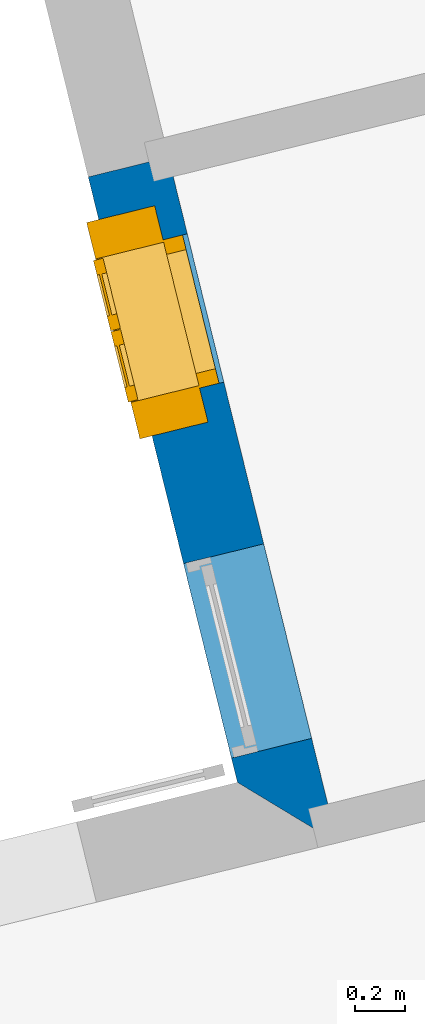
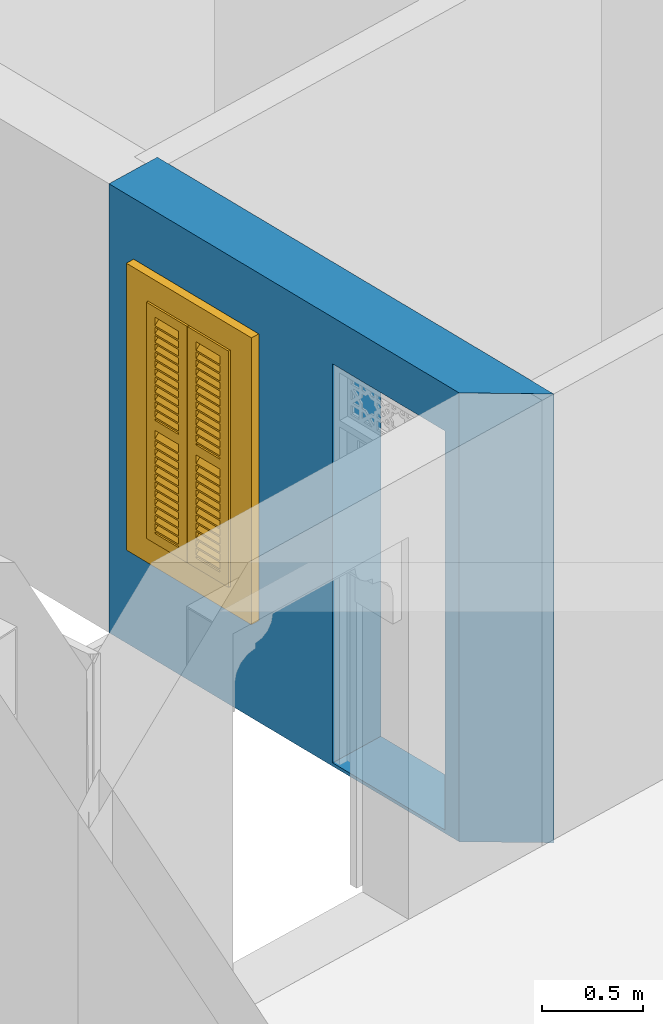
# One storey, part 5 of 12: 1 wall, 1 window, 2 openings.
"""IFC4 building model written with IfcOpenShell, lengths in metres."""

from ifc_helpers import new_model, si_unit, frame, origin, origin_with_axes, place, context, subcontext, project, spatial, polyline, outline, extrude, faceted_brep, source, transform, mapped, material, layer, layer_set, layer_usage, type_object, type_shapes, element, fill, save


model = new_model("IFC4")

# Units and contexts
model_context = context("Model", 3, world=origin_with_axes())
body_context = subcontext(model_context, "Body", "Model", "MODEL_VIEW")
ifc_project = project(units=[si_unit("PLANEANGLEUNIT", "RADIAN"), si_unit("MASSUNIT", "GRAM", prefix="KILO"), si_unit("FORCEUNIT", "NEWTON", prefix="KILO"), si_unit("LENGTHUNIT", "METRE"), si_unit("AREAUNIT", "SQUARE_METRE"), si_unit("VOLUMEUNIT", "CUBIC_METRE")], contexts=[model_context, model_context])

# Site, building, storey
site_placement = place(None, origin_with_axes())
site = spatial("IfcSite", under=ifc_project, at=site_placement, Name="Site plot-1", CompositionType="ELEMENT")
building_placement = place(None, origin_with_axes())
building = spatial("IfcBuilding", under=site, at=building_placement, Name="Building plot-1", CompositionType="ELEMENT")
storey_placement = place(None, origin_with_axes())
storey = spatial("IfcBuildingStorey", under=building, at=storey_placement, Name="plot-1 0", CompositionType="ELEMENT", Elevation=0.0)

# Wall, openings, window
ifc_material = material(Name="Masonry")
ifc_layer = layer(ifc_material, 0.33, ventilated=False)
ifc_layer_set = layer_set([ifc_layer], Name="exterior_0.08_0.25")
ifc_layer_usage = layer_usage(ifc_layer_set, "AXIS2", "POSITIVE", -0.25)
wall_type = type_object("IfcWallType", Name="exterior_0.08_0.25", PredefinedType="SOLIDWALL", material=ifc_layer_set)
wall_placement = place(storey_placement, frame((2.49804151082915, 21.2338836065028, 0.0), z_axis=(0.0, 0.0, 1.0), x_axis=(0.239234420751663, -0.970961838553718, 0.0)))
wall = element("IfcWall", 1, at=wall_placement, inside=storey, type_object=wall_type, material=ifc_layer_usage, Name="exterior", context=body_context, shape_type="SweptSolid", body=[
    extrude(outline(polyline([(-2.43791370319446e-16, 0.0800000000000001), (-1.37819188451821e-15, -0.25), (2.49089482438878, -0.249999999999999), (2.82089482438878, 0.0800000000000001), (-2.43791370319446e-16, 0.0800000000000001)])), origin_with_axes(), (0.0, 0.0, 1.0), 2.7),
])
opening_1_placement = place(wall_placement, frame((0.31544741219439, 0.0, 0.75)))
opening_1 = element("IfcOpeningElement", 2, at=opening_1_placement, cuts=wall, Name="My Opening", ObjectType="Opening", context=body_context, shape_type="SweptSolid", body=[
    extrude(outline(polyline([(0.0, -0.270000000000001), (0.610000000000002, -0.270000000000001), (0.61, 1.1), (-2.05391259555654e-15, 1.1), (0.0, -0.270000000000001)])), origin_with_axes(), (0.0, 0.0, 1.0), 1.445),
])
opening_2_placement = place(wall_placement, frame((1.59089482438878, 0.0, 0.02)))
element("IfcOpeningElement", 3, at=opening_2_placement, cuts=wall, Name="My Opening", ObjectType="Opening", context=body_context, shape_type="SweptSolid", body=[
    extrude(outline(polyline([(0.0, -0.27), (0.8, -0.270000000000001), (0.799999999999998, 1.1), (-2.44249065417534e-15, 1.1), (0.0, -0.27)])), origin_with_axes(), (0.0, 0.0, 1.0), 2.4),
])
window_type = type_object("IfcWindowType", Name="shuttered_shorter_narrow", PartitioningType="DOUBLE_PANEL_HORIZONTAL", PredefinedType="NOTDEFINED")
shared_shape = source(origin(), body_context, "Body", "Brep", [
    faceted_brep([(0.243, 0.0, 0.622), (0.074, 0.0, 0.622), (0.074, 0.0, 0.632), (0.243, 0.0, 0.632), (0.074, -0.04, 0.592), (0.243, -0.04, 0.592), (0.243, -0.04, 0.582), (0.074, -0.04, 0.582), (0.367, 0.0, 0.682), (0.536, 0.0, 0.682), (0.536, 0.0, 0.672), (0.367, 0.0, 0.672), (0.367, -0.04, 0.642), (0.536, -0.04, 0.642), (0.536, -0.04, 0.632), (0.367, -0.04, 0.632), (0.367, 0.0, 0.632), (0.536, 0.0, 0.632), (0.536, 0.0, 0.622), (0.367, 0.0, 0.622), (0.367, -0.04, 0.592), (0.536, -0.04, 0.592), (0.536, -0.04, 0.582), (0.367, -0.04, 0.582), (0.367, 0.0, 0.232), (0.536, 0.0, 0.232), (0.536, 0.0, 0.222), (0.367, 0.0, 0.222), (0.367, -0.04, 0.192), (0.536, -0.04, 0.192), (0.536, -0.04, 0.182), (0.367, -0.04, 0.182), (0.367, 0.0, 0.532), (0.536, 0.0, 0.532), (0.536, 0.0, 0.522), (0.367, 0.0, 0.522), (0.367, -0.04, 0.492), (0.536, -0.04, 0.492), (0.536, -0.04, 0.482), (0.367, -0.04, 0.482), (0.367, 0.0, 0.482), (0.536, 0.0, 0.482), (0.536, 0.0, 0.472), (0.367, 0.0, 0.472), (0.367, -0.04, 0.442), (0.536, -0.04, 0.442), (0.536, -0.04, 0.432), (0.367, -0.04, 0.432), (0.367, 0.0, 0.582), (0.536, 0.0, 0.582), (0.536, 0.0, 0.572), (0.367, 0.0, 0.572), (0.367, -0.04, 0.542), (0.536, -0.04, 0.542), (0.536, -0.04, 0.532), (0.367, -0.04, 0.532), (0.367, 0.0, 0.182), (0.536, 0.0, 0.182), (0.536, 0.0, 0.172), (0.367, 0.0, 0.172), (0.367, -0.04, 0.142), (0.536, -0.04, 0.142), (0.536, -0.04, 0.132), (0.367, -0.04, 0.132), (0.367, 0.0, 0.382), (0.536, 0.0, 0.382), (0.536, 0.0, 0.372), (0.367, 0.0, 0.372), (0.367, -0.04, 0.342), (0.536, -0.04, 0.342), (0.536, -0.04, 0.332), (0.367, -0.04, 0.332), (0.367, 0.0, 0.432), (0.536, 0.0, 0.432), (0.536, 0.0, 0.422), (0.367, 0.0, 0.422), (0.367, -0.04, 0.392), (0.536, -0.04, 0.392), (0.536, -0.04, 0.382), (0.367, -0.04, 0.382), (0.367, 0.0, 0.132), (0.536, 0.0, 0.132), (0.536, 0.0, 0.122), (0.367, 0.0, 0.122), (0.367, -0.04, 0.092), (0.536, -0.04, 0.092), (0.536, -0.04, 0.082), (0.367, -0.04, 0.082), (0.367, 0.0, 0.282), (0.536, 0.0, 0.282), (0.536, 0.0, 0.272), (0.367, 0.0, 0.272), (0.367, -0.04, 0.242), (0.536, -0.04, 0.242), (0.536, -0.04, 0.232), (0.367, -0.04, 0.232), (0.367, 0.0, 0.332), (0.536, 0.0, 0.332), (0.536, 0.0, 0.322), (0.367, 0.0, 0.322), (0.367, -0.04, 0.292), (0.536, -0.04, 0.292), (0.536, -0.04, 0.282), (0.367, -0.04, 0.282), (0.367, 0.0, 1.362667), (0.536, 0.0, 1.362667), (0.536, 0.0, 1.352667), (0.367, 0.0, 1.352667), (0.367, -0.04, 1.322667), (0.536, -0.04, 1.322667), (0.536, -0.04, 1.312667), (0.367, -0.04, 1.312667), (0.367, 0.0, 1.312667), (0.536, 0.0, 1.312667), (0.536, 0.0, 1.302667), (0.367, 0.0, 1.302667), (0.367, -0.04, 1.272667), (0.536, -0.04, 1.272667), (0.536, -0.04, 1.262667), (0.367, -0.04, 1.262667), (0.367, 0.0, 0.912667), (0.536, 0.0, 0.912667), (0.536, 0.0, 0.902667), (0.367, 0.0, 0.902667), (0.367, -0.04, 0.872667), (0.536, -0.04, 0.872667), (0.536, -0.04, 0.862667), (0.367, -0.04, 0.862667), (0.367, 0.0, 1.212667), (0.536, 0.0, 1.212667), (0.536, 0.0, 1.202667), (0.367, 0.0, 1.202667), (0.367, -0.04, 1.172667), (0.536, -0.04, 1.172667), (0.536, -0.04, 1.162667), (0.367, -0.04, 1.162667), (0.367, 0.0, 1.162667), (0.536, 0.0, 1.162667), (0.536, 0.0, 1.152667), (0.367, 0.0, 1.152667), (0.367, -0.04, 1.122667), (0.536, -0.04, 1.122667), (0.536, -0.04, 1.112667), (0.367, -0.04, 1.112667), (0.367, 0.0, 1.262667), (0.536, 0.0, 1.262667), (0.536, 0.0, 1.252667), (0.367, 0.0, 1.252667), (0.367, -0.04, 1.222667), (0.536, -0.04, 1.222667), (0.536, -0.04, 1.212667), (0.367, -0.04, 1.212667), (0.367, 0.0, 0.862667), (0.536, 0.0, 0.862667), (0.536, 0.0, 0.852667), (0.367, 0.0, 0.852667), (0.367, -0.04, 0.822667), (0.536, -0.04, 0.822667), (0.536, -0.04, 0.812667), (0.367, -0.04, 0.812667), (0.367, 0.0, 1.062667), (0.536, 0.0, 1.062667), (0.536, 0.0, 1.052667), (0.367, 0.0, 1.052667), (0.367, -0.04, 1.022667), (0.536, -0.04, 1.022667), (0.536, -0.04, 1.012667), (0.367, -0.04, 1.012667), (0.367, 0.0, 1.112667), (0.536, 0.0, 1.112667), (0.536, 0.0, 1.102667), (0.367, 0.0, 1.102667), (0.367, -0.04, 1.072667), (0.536, -0.04, 1.072667), (0.536, -0.04, 1.062667), (0.367, -0.04, 1.062667), (0.367, 0.0, 0.812667), (0.536, 0.0, 0.812667), (0.536, 0.0, 0.802667), (0.367, 0.0, 0.802667), (0.367, -0.04, 0.772667), (0.536, -0.04, 0.772667), (0.536, -0.04, 0.762667), (0.367, -0.04, 0.762667), (0.367, 0.0, 0.962667), (0.536, 0.0, 0.962667), (0.536, 0.0, 0.952667), (0.367, 0.0, 0.952667), (0.367, -0.04, 0.922667), (0.536, -0.04, 0.922667), (0.536, -0.04, 0.912667), (0.367, -0.04, 0.912667), (0.367, 0.0, 1.012667), (0.536, 0.0, 1.012667), (0.536, 0.0, 1.002667), (0.367, 0.0, 1.002667), (0.367, -0.04, 0.972667), (0.536, -0.04, 0.972667), (0.536, -0.04, 0.962667), (0.367, -0.04, 0.962667), (0.074, 0.0, 0.682), (0.243, 0.0, 0.682), (0.243, 0.0, 0.672), (0.074, 0.0, 0.672), (0.074, -0.04, 0.642), (0.243, -0.04, 0.642), (0.243, -0.04, 0.632), (0.074, -0.04, 0.632), (0.074, 0.0, 0.232), (0.243, 0.0, 0.232), (0.243, 0.0, 0.222), (0.074, 0.0, 0.222), (0.074, -0.04, 0.192), (0.243, -0.04, 0.192), (0.243, -0.04, 0.182), (0.074, -0.04, 0.182), (0.074, 0.0, 0.532), (0.243, 0.0, 0.532), (0.243, 0.0, 0.522), (0.074, 0.0, 0.522), (0.074, -0.04, 0.492), (0.243, -0.04, 0.492), (0.243, -0.04, 0.482), (0.074, -0.04, 0.482), (0.074, 0.0, 0.482), (0.243, 0.0, 0.482), (0.243, 0.0, 0.472), (0.074, 0.0, 0.472), (0.074, -0.04, 0.442), (0.243, -0.04, 0.442), (0.243, -0.04, 0.432), (0.074, -0.04, 0.432), (0.074, 0.0, 0.582), (0.243, 0.0, 0.582), (0.243, 0.0, 0.572), (0.074, 0.0, 0.572), (0.074, -0.04, 0.542), (0.243, -0.04, 0.542), (0.243, -0.04, 0.532), (0.074, -0.04, 0.532), (0.074, 0.0, 0.182), (0.243, 0.0, 0.182), (0.243, 0.0, 0.172), (0.074, 0.0, 0.172), (0.074, -0.04, 0.142), (0.243, -0.04, 0.142), (0.243, -0.04, 0.132), (0.074, -0.04, 0.132), (0.074, 0.0, 0.382), (0.243, 0.0, 0.382), (0.243, 0.0, 0.372), (0.074, 0.0, 0.372), (0.074, -0.04, 0.342), (0.243, -0.04, 0.342), (0.243, -0.04, 0.332), (0.074, -0.04, 0.332), (0.074, 0.0, 0.432), (0.243, 0.0, 0.432), (0.243, 0.0, 0.422), (0.074, 0.0, 0.422), (0.074, -0.04, 0.392), (0.243, -0.04, 0.392), (0.243, -0.04, 0.382), (0.074, -0.04, 0.382), (0.074, 0.0, 0.132), (0.243, 0.0, 0.132), (0.243, 0.0, 0.122), (0.074, 0.0, 0.122), (0.074, -0.04, 0.092), (0.243, -0.04, 0.092), (0.243, -0.04, 0.082), (0.074, -0.04, 0.082), (0.074, 0.0, 0.282), (0.243, 0.0, 0.282), (0.243, 0.0, 0.272), (0.074, 0.0, 0.272), (0.074, -0.04, 0.242), (0.243, -0.04, 0.242), (0.243, -0.04, 0.232), (0.074, -0.04, 0.232), (0.074, 0.0, 0.332), (0.243, 0.0, 0.332), (0.243, 0.0, 0.322), (0.074, 0.0, 0.322), (0.074, -0.04, 0.292), (0.243, -0.04, 0.292), (0.243, -0.04, 0.282), (0.074, -0.04, 0.282), (0.074, 0.0, 1.362667), (0.243, 0.0, 1.362667), (0.243, 0.0, 1.352667), (0.074, 0.0, 1.352667), (0.074, -0.04, 1.322667), (0.243, -0.04, 1.322667), (0.243, -0.04, 1.312667), (0.074, -0.04, 1.312667), (0.074, 0.0, 1.312667), (0.243, 0.0, 1.312667), (0.243, 0.0, 1.302667), (0.074, 0.0, 1.302667), (0.074, -0.04, 1.272667), (0.243, -0.04, 1.272667), (0.243, -0.04, 1.262667), (0.074, -0.04, 1.262667), (0.074, 0.0, 0.912667), (0.243, 0.0, 0.912667), (0.243, 0.0, 0.902667), (0.074, 0.0, 0.902667), (0.074, -0.04, 0.872667), (0.243, -0.04, 0.872667), (0.243, -0.04, 0.862667), (0.074, -0.04, 0.862667), (0.074, 0.0, 1.212667), (0.243, 0.0, 1.212667), (0.243, 0.0, 1.202667), (0.074, 0.0, 1.202667), (0.074, -0.04, 1.172667), (0.243, -0.04, 1.172667), (0.243, -0.04, 1.162667), (0.074, -0.04, 1.162667), (0.074, 0.0, 1.162667), (0.243, 0.0, 1.162667), (0.243, 0.0, 1.152667), (0.074, 0.0, 1.152667), (0.074, -0.04, 1.122667), (0.243, -0.04, 1.122667), (0.243, -0.04, 1.112667), (0.074, -0.04, 1.112667), (0.074, 0.0, 1.262667), (0.243, 0.0, 1.262667), (0.243, 0.0, 1.252667), (0.074, 0.0, 1.252667), (0.074, -0.04, 1.222667), (0.243, -0.04, 1.222667), (0.243, -0.04, 1.212667), (0.074, -0.04, 1.212667), (0.074, 0.0, 0.862667), (0.243, 0.0, 0.862667), (0.243, 0.0, 0.852667), (0.074, 0.0, 0.852667), (0.074, -0.04, 0.822667), (0.243, -0.04, 0.822667), (0.243, -0.04, 0.812667), (0.074, -0.04, 0.812667), (0.074, 0.0, 1.062667), (0.243, 0.0, 1.062667), (0.243, 0.0, 1.052667), (0.074, 0.0, 1.052667), (0.074, -0.04, 1.022667), (0.243, -0.04, 1.022667), (0.243, -0.04, 1.012667), (0.074, -0.04, 1.012667), (0.074, 0.0, 1.112667), (0.243, 0.0, 1.112667), (0.243, 0.0, 1.102667), (0.074, 0.0, 1.102667), (0.074, -0.04, 1.072667), (0.243, -0.04, 1.072667), (0.243, -0.04, 1.062667), (0.074, -0.04, 1.062667), (0.074, 0.0, 0.812667), (0.243, 0.0, 0.812667), (0.243, 0.0, 0.802667), (0.074, 0.0, 0.802667), (0.074, -0.04, 0.772667), (0.243, -0.04, 0.772667), (0.243, -0.04, 0.762667), (0.074, -0.04, 0.762667), (0.074, 0.0, 0.962667), (0.243, 0.0, 0.962667), (0.243, 0.0, 0.952667), (0.074, 0.0, 0.952667), (0.074, -0.04, 0.922667), (0.243, -0.04, 0.922667), (0.243, -0.04, 0.912667), (0.074, -0.04, 0.912667), (0.074, 0.0, 1.012667), (0.243, 0.0, 1.012667), (0.243, 0.0, 1.002667), (0.074, 0.0, 1.002667), (0.074, -0.04, 0.972667), (0.243, -0.04, 0.972667), (0.243, -0.04, 0.962667), (0.074, -0.04, 0.962667), (0.367, -0.04, 0.072), (0.307, -0.04, 0.012), (0.596, -0.04, 0.012), (0.536, -0.04, 0.072), (0.307, -0.04, 0.692667), (0.367, -0.04, 0.692667), (0.307, 0.0, 0.012), (0.596, 0.0, 0.012), (0.536, -0.04, 0.692667), (0.596, -0.04, 0.692667), (0.536, 0.0, 0.072), (0.367, 0.0, 0.072), (0.307, 0.0, 0.692667), (0.367, 0.0, 0.692667), (0.367, -0.04, 0.752666), (0.307, -0.04, 0.752666), (0.596, 0.0, 0.692667), (0.536, 0.0, 0.692667), (0.536, -0.04, 0.752666), (0.596, -0.04, 0.752666), (0.307, 0.0, 0.752666), (0.307, -0.04, 1.433333), (0.367, -0.04, 1.373333), (0.596, 0.0, 0.752666), (0.536, -0.04, 1.373333), (0.596, -0.04, 1.433333), (0.307, 0.0, 1.433333), (0.367, 0.0, 0.752666), (0.536, 0.0, 0.752666), (0.367, 0.0, 1.373333), (0.596, 0.0, 1.433333), (0.536, 0.0, 1.373333), (0.074, -0.04, 0.072), (0.014, -0.04, 0.012), (0.303, -0.04, 0.012), (0.243, -0.04, 0.072), (0.014, -0.04, 0.692667), (0.074, -0.04, 0.692667), (0.014, 0.0, 0.012), (0.303, 0.0, 0.012), (0.243, -0.04, 0.692667), (0.303, -0.04, 0.692667), (0.243, 0.0, 0.072), (0.074, 0.0, 0.072), (0.014, 0.0, 0.692667), (0.074, 0.0, 0.692667), (0.074, -0.04, 0.752666), (0.014, -0.04, 0.752666), (0.303, 0.0, 0.692667), (0.243, 0.0, 0.692667), (0.243, -0.04, 0.752666), (0.303, -0.04, 0.752666), (0.014, 0.0, 0.752666), (0.014, -0.04, 1.433333), (0.074, -0.04, 1.373333), (0.303, 0.0, 0.752666), (0.243, -0.04, 1.373333), (0.303, -0.04, 1.433333), (0.014, 0.0, 1.433333), (0.074, 0.0, 0.752666), (0.243, 0.0, 0.752666), (0.074, 0.0, 1.373333), (0.303, 0.0, 1.433333), (0.243, 0.0, 1.373333), (0.0, 0.33, 1.445), (0.61, 0.33, 1.445), (0.55, 0.33, 1.385), (0.06, 0.33, 1.385), (0.61, 0.25, 1.445), (0.0, 0.25, 1.445), (0.61, 0.25, 1.445), (0.55, 0.33, 0.06), (0.61, 0.33, 0.0), (0.55, 0.25, 1.385), (0.06, 0.25, 1.385), (0.0, 0.33, 0.0), (0.06, 0.33, 0.06), (0.0, 0.25, 0.0), (0.61, 0.25, 0.0), (0.55, 0.25, 0.06), (0.06, 0.25, 0.06), (0.75, 0.25, 1.585), (-0.14, 0.25, 1.585), (-0.14, -0.03, 1.585), (0.75, -0.03, 1.585), (0.6, -0.03, 1.435), (0.01, -0.03, 1.435), (0.01, 0.25, 1.435), (0.6, 0.25, 1.435), (0.6, 0.25, 0.01), (0.6, -0.03, 0.01), (0.75, -0.03, -0.14), (0.75, 0.25, -0.14), (0.01, -0.03, 0.01), (0.01, 0.25, 0.01), (-0.14, -0.03, -0.14), (-0.14, 0.25, -0.14)], [[[0, 1, 2, 3]], [[4, 5, 3, 2]], [[5, 6, 0, 3]], [[1, 0, 6, 7]], [[2, 1, 7, 4]], [[5, 4, 7, 6]], [[8, 9, 10, 11]], [[12, 13, 9, 8]], [[13, 14, 10, 9]], [[14, 15, 11, 10]], [[15, 12, 8, 11]], [[13, 12, 15, 14]], [[16, 17, 18, 19]], [[20, 21, 17, 16]], [[21, 22, 18, 17]], [[22, 23, 19, 18]], [[23, 20, 16, 19]], [[21, 20, 23, 22]], [[24, 25, 26, 27]], [[28, 29, 25, 24]], [[29, 30, 26, 25]], [[30, 31, 27, 26]], [[31, 28, 24, 27]], [[29, 28, 31, 30]], [[32, 33, 34, 35]], [[36, 37, 33, 32]], [[37, 38, 34, 33]], [[38, 39, 35, 34]], [[39, 36, 32, 35]], [[37, 36, 39, 38]], [[40, 41, 42, 43]], [[44, 45, 41, 40]], [[45, 46, 42, 41]], [[46, 47, 43, 42]], [[47, 44, 40, 43]], [[45, 44, 47, 46]], [[48, 49, 50, 51]], [[52, 53, 49, 48]], [[53, 54, 50, 49]], [[54, 55, 51, 50]], [[55, 52, 48, 51]], [[53, 52, 55, 54]], [[56, 57, 58, 59]], [[60, 61, 57, 56]], [[61, 62, 58, 57]], [[62, 63, 59, 58]], [[63, 60, 56, 59]], [[61, 60, 63, 62]], [[64, 65, 66, 67]], [[68, 69, 65, 64]], [[69, 70, 66, 65]], [[70, 71, 67, 66]], [[71, 68, 64, 67]], [[69, 68, 71, 70]], [[72, 73, 74, 75]], [[76, 77, 73, 72]], [[77, 78, 74, 73]], [[78, 79, 75, 74]], [[79, 76, 72, 75]], [[77, 76, 79, 78]], [[80, 81, 82, 83]], [[84, 85, 81, 80]], [[85, 86, 82, 81]], [[86, 87, 83, 82]], [[87, 84, 80, 83]], [[85, 84, 87, 86]], [[88, 89, 90, 91]], [[92, 93, 89, 88]], [[93, 94, 90, 89]], [[94, 95, 91, 90]], [[95, 92, 88, 91]], [[93, 92, 95, 94]], [[96, 97, 98, 99]], [[100, 101, 97, 96]], [[101, 102, 98, 97]], [[102, 103, 99, 98]], [[103, 100, 96, 99]], [[101, 100, 103, 102]], [[104, 105, 106, 107]], [[108, 109, 105, 104]], [[109, 110, 106, 105]], [[110, 111, 107, 106]], [[111, 108, 104, 107]], [[109, 108, 111, 110]], [[112, 113, 114, 115]], [[116, 117, 113, 112]], [[117, 118, 114, 113]], [[118, 119, 115, 114]], [[119, 116, 112, 115]], [[117, 116, 119, 118]], [[120, 121, 122, 123]], [[124, 125, 121, 120]], [[125, 126, 122, 121]], [[126, 127, 123, 122]], [[127, 124, 120, 123]], [[125, 124, 127, 126]], [[128, 129, 130, 131]], [[132, 133, 129, 128]], [[133, 134, 130, 129]], [[134, 135, 131, 130]], [[135, 132, 128, 131]], [[133, 132, 135, 134]], [[136, 137, 138, 139]], [[140, 141, 137, 136]], [[141, 142, 138, 137]], [[142, 143, 139, 138]], [[139, 143, 140, 136]], [[141, 140, 143, 142]], [[144, 145, 146, 147]], [[148, 149, 145, 144]], [[149, 150, 146, 145]], [[150, 151, 147, 146]], [[151, 148, 144, 147]], [[149, 148, 151, 150]], [[152, 153, 154, 155]], [[156, 157, 153, 152]], [[157, 158, 154, 153]], [[158, 159, 155, 154]], [[159, 156, 152, 155]], [[157, 156, 159, 158]], [[160, 161, 162, 163]], [[164, 165, 161, 160]], [[165, 166, 162, 161]], [[166, 167, 163, 162]], [[167, 164, 160, 163]], [[165, 164, 167, 166]], [[168, 169, 170, 171]], [[172, 173, 169, 168]], [[173, 174, 170, 169]], [[174, 175, 171, 170]], [[175, 172, 168, 171]], [[173, 172, 175, 174]], [[176, 177, 178, 179]], [[180, 181, 177, 176]], [[181, 182, 178, 177]], [[182, 183, 179, 178]], [[183, 180, 176, 179]], [[181, 180, 183, 182]], [[184, 185, 186, 187]], [[188, 189, 185, 184]], [[189, 190, 186, 185]], [[190, 191, 187, 186]], [[191, 188, 184, 187]], [[189, 188, 191, 190]], [[192, 193, 194, 195]], [[196, 197, 193, 192]], [[197, 198, 194, 193]], [[198, 199, 195, 194]], [[199, 196, 192, 195]], [[197, 196, 199, 198]], [[200, 201, 202, 203]], [[204, 205, 201, 200]], [[205, 206, 202, 201]], [[206, 207, 203, 202]], [[207, 204, 200, 203]], [[205, 204, 207, 206]], [[208, 209, 210, 211]], [[212, 213, 209, 208]], [[213, 214, 210, 209]], [[214, 215, 211, 210]], [[215, 212, 208, 211]], [[213, 212, 215, 214]], [[216, 217, 218, 219]], [[220, 221, 217, 216]], [[221, 222, 218, 217]], [[222, 223, 219, 218]], [[223, 220, 216, 219]], [[221, 220, 223, 222]], [[224, 225, 226, 227]], [[228, 229, 225, 224]], [[229, 230, 226, 225]], [[230, 231, 227, 226]], [[231, 228, 224, 227]], [[229, 228, 231, 230]], [[232, 233, 234, 235]], [[236, 237, 233, 232]], [[237, 238, 234, 233]], [[238, 239, 235, 234]], [[239, 236, 232, 235]], [[237, 236, 239, 238]], [[240, 241, 242, 243]], [[244, 245, 241, 240]], [[245, 246, 242, 241]], [[246, 247, 243, 242]], [[247, 244, 240, 243]], [[245, 244, 247, 246]], [[248, 249, 250, 251]], [[252, 253, 249, 248]], [[253, 254, 250, 249]], [[254, 255, 251, 250]], [[255, 252, 248, 251]], [[253, 252, 255, 254]], [[256, 257, 258, 259]], [[260, 261, 257, 256]], [[261, 262, 258, 257]], [[262, 263, 259, 258]], [[263, 260, 256, 259]], [[261, 260, 263, 262]], [[264, 265, 266, 267]], [[268, 269, 265, 264]], [[269, 270, 266, 265]], [[270, 271, 267, 266]], [[271, 268, 264, 267]], [[269, 268, 271, 270]], [[272, 273, 274, 275]], [[276, 277, 273, 272]], [[277, 278, 274, 273]], [[278, 279, 275, 274]], [[279, 276, 272, 275]], [[277, 276, 279, 278]], [[280, 281, 282, 283]], [[284, 285, 281, 280]], [[285, 286, 282, 281]], [[286, 287, 283, 282]], [[287, 284, 280, 283]], [[285, 284, 287, 286]], [[288, 289, 290, 291]], [[292, 293, 289, 288]], [[293, 294, 290, 289]], [[294, 295, 291, 290]], [[295, 292, 288, 291]], [[293, 292, 295, 294]], [[296, 297, 298, 299]], [[300, 301, 297, 296]], [[301, 302, 298, 297]], [[302, 303, 299, 298]], [[303, 300, 296, 299]], [[301, 300, 303, 302]], [[304, 305, 306, 307]], [[308, 309, 305, 304]], [[309, 310, 306, 305]], [[310, 311, 307, 306]], [[311, 308, 304, 307]], [[309, 308, 311, 310]], [[312, 313, 314, 315]], [[316, 317, 313, 312]], [[317, 318, 314, 313]], [[318, 319, 315, 314]], [[319, 316, 312, 315]], [[317, 316, 319, 318]], [[320, 321, 322, 323]], [[324, 325, 321, 320]], [[325, 326, 322, 321]], [[326, 327, 323, 322]], [[327, 324, 320, 323]], [[325, 324, 327, 326]], [[328, 329, 330, 331]], [[332, 333, 329, 328]], [[333, 334, 330, 329]], [[334, 335, 331, 330]], [[335, 332, 328, 331]], [[333, 332, 335, 334]], [[336, 337, 338, 339]], [[340, 341, 337, 336]], [[341, 342, 338, 337]], [[342, 343, 339, 338]], [[343, 340, 336, 339]], [[341, 340, 343, 342]], [[344, 345, 346, 347]], [[348, 349, 345, 344]], [[349, 350, 346, 345]], [[350, 351, 347, 346]], [[351, 348, 344, 347]], [[349, 348, 351, 350]], [[352, 353, 354, 355]], [[356, 357, 353, 352]], [[357, 358, 354, 353]], [[358, 359, 355, 354]], [[359, 356, 352, 355]], [[357, 356, 359, 358]], [[360, 361, 362, 363]], [[364, 365, 361, 360]], [[365, 366, 362, 361]], [[366, 367, 363, 362]], [[367, 364, 360, 363]], [[365, 364, 367, 366]], [[368, 369, 370, 371]], [[372, 373, 369, 368]], [[373, 374, 370, 369]], [[374, 375, 371, 370]], [[375, 372, 368, 371]], [[373, 372, 375, 374]], [[376, 377, 378, 379]], [[380, 381, 377, 376]], [[381, 382, 378, 377]], [[382, 383, 379, 378]], [[383, 380, 376, 379]], [[381, 380, 383, 382]], [[384, 385, 386, 387]], [[388, 385, 384, 389]], [[390, 391, 386, 385]], [[392, 387, 386, 393]], [[384, 387, 394, 395]], [[390, 385, 388, 396]], [[389, 384, 395, 397]], [[389, 398, 399, 388]], [[390, 395, 394, 391]], [[400, 393, 386, 391]], [[387, 392, 401, 394]], [[402, 392, 393, 403]], [[396, 388, 399, 404]], [[390, 396, 397, 395]], [[392, 389, 397, 401]], [[398, 389, 392, 402]], [[405, 399, 398, 406]], [[394, 401, 400, 391]], [[407, 403, 393, 400]], [[408, 402, 403, 409]], [[404, 399, 405, 410]], [[411, 397, 396, 404]], [[397, 411, 412, 401]], [[398, 402, 412, 411]], [[406, 398, 411, 413]], [[405, 406, 408, 409]], [[401, 412, 407, 400]], [[414, 409, 403, 407]], [[402, 408, 415, 412]], [[405, 409, 414, 410]], [[404, 410, 413, 411]], [[408, 406, 413, 415]], [[412, 415, 414, 407]], [[413, 410, 414, 415]], [[416, 417, 418, 419]], [[420, 417, 416, 421]], [[422, 423, 418, 417]], [[424, 419, 418, 425]], [[416, 419, 426, 427]], [[422, 417, 420, 428]], [[421, 416, 427, 429]], [[421, 430, 431, 420]], [[422, 427, 426, 423]], [[432, 425, 418, 423]], [[419, 424, 433, 426]], [[434, 424, 425, 435]], [[428, 420, 431, 436]], [[422, 428, 429, 427]], [[424, 421, 429, 433]], [[430, 421, 424, 434]], [[437, 431, 430, 438]], [[426, 433, 432, 423]], [[439, 435, 425, 432]], [[440, 434, 435, 441]], [[436, 431, 437, 442]], [[443, 429, 428, 436]], [[429, 443, 444, 433]], [[430, 434, 444, 443]], [[438, 430, 443, 445]], [[437, 438, 440, 441]], [[433, 444, 439, 432]], [[446, 441, 435, 439]], [[434, 440, 447, 444]], [[437, 441, 446, 442]], [[436, 442, 445, 443]], [[440, 438, 445, 447]], [[444, 447, 446, 439]], [[445, 442, 446, 447]], [[448, 449, 450, 451]], [[452, 449, 448]], [[448, 453, 454]], [[448, 454, 452]], [[455, 450, 449, 456]], [[451, 450, 457, 458]], [[459, 448, 451, 460]], [[448, 459, 461, 453]], [[454, 453, 458, 457]], [[462, 452, 454]], [[454, 457, 463]], [[454, 463, 462]], [[456, 449, 452, 462]], [[450, 455, 463, 457]], [[456, 459, 460, 455]], [[460, 451, 458, 464]], [[459, 456, 462, 461]], [[464, 458, 453, 461]], [[461, 462, 463, 464]], [[455, 460, 464, 463]], [[465, 466, 467, 468]], [[469, 470, 471, 472]], [[473, 474, 469, 472]], [[465, 468, 475, 476]], [[470, 477, 478, 471]], [[474, 473, 478, 477]], [[474, 477, 479, 475]], [[470, 467, 479, 477]], [[470, 469, 468, 467]], [[474, 475, 468, 469]], [[471, 478, 480, 466]], [[473, 472, 465, 476]], [[473, 476, 480, 478]], [[466, 465, 472, 471]], [[480, 476, 475, 479]], [[480, 479, 467, 466]]]),
])
type_shapes(window_type, [shared_shape])
window_placement = place(storey_placement, frame((2.31134769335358, 20.8630029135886, 0.75), z_axis=(0.0, 0.0, 1.0), x_axis=(0.145932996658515, -0.59228672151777, 0.0)))
window = element("IfcWindow", 4, at=window_placement, inside=storey, type_object=window_type, Name="toilet sahn window", OverallHeight=1.445, OverallWidth=0.61, context=body_context, shape_type="MappedRepresentation", body=[
    mapped(shared_shape, transform((0.0, 0.0, 0.0), scale=1.0)),
])
fill(opening_1, window)

save(model, "model.ifc")
